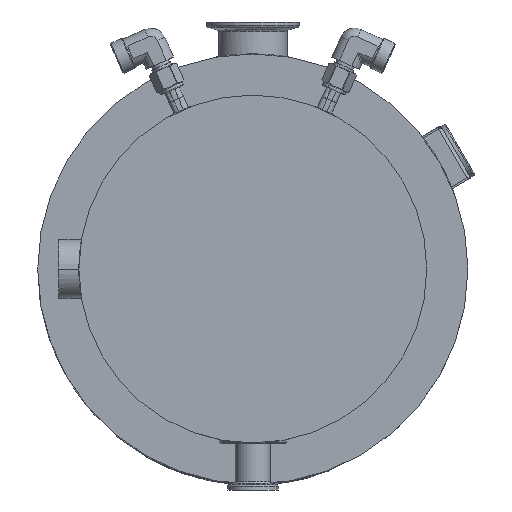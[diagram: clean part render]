
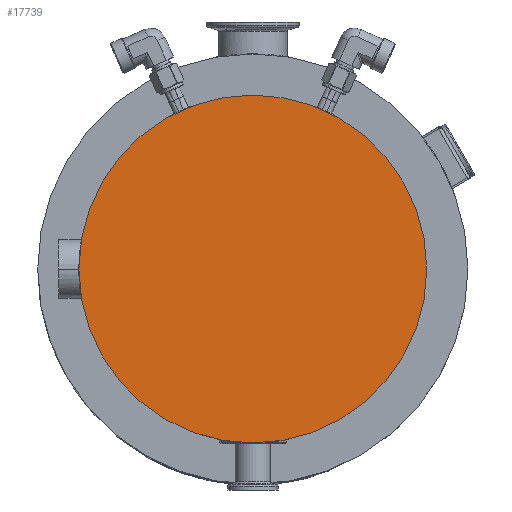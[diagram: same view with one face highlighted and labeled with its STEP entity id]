
A CAD part, front view. The second image highlights one B-rep face of the part: STEP entity #17739.
In plain terms, the highlighted planar face has unit normal (0, -1, 0).
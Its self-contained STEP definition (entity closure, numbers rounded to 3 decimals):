
#3968=CARTESIAN_POINT('',(0.,-7.7,0.));
#3969=DIRECTION('',(0.,-1.,0.));
#3970=DIRECTION('',(-1.,0.,0.));
#3971=AXIS2_PLACEMENT_3D('',#3968,#3969,#3970);
#4468=CARTESIAN_POINT('',(0.,-7.7,0.));
#4469=DIRECTION('',(0.,1.,0.));
#4470=DIRECTION('',(-1.,0.,0.));
#4471=AXIS2_PLACEMENT_3D('',#4468,#4469,#4470);
#8147=CARTESIAN_POINT('',(103.5,-7.7,0.));
#8149=VERTEX_POINT('',#8147);
#8181=CARTESIAN_POINT('',(-103.5,-7.7,0.));
#8182=VERTEX_POINT('',#8181);
#17730=CARTESIAN_POINT('',(0.,-7.7,0.));
#17731=DIRECTION('',(0.,-1.,0.));
#17732=DIRECTION('',(1.,0.,0.));
#17733=AXIS2_PLACEMENT_3D('',#17730,#17731,#17732);
#17734=PLANE('',#17733);
#17735=ORIENTED_EDGE('',*,*,#14310,.T.);
#17736=ORIENTED_EDGE('',*,*,#13786,.F.);
#17737=EDGE_LOOP('',(#17735,#17736));
#17738=FACE_OUTER_BOUND('',#17737,.F.);
#17739=ADVANCED_FACE('',(#17738),#17734,.T.);
#3972=CIRCLE('',#3971,103.5);
#4472=CIRCLE('',#4471,103.5);
#13786=EDGE_CURVE('',#8182,#8149,#3972,.T.);
#14310=EDGE_CURVE('',#8182,#8149,#4472,.T.);
